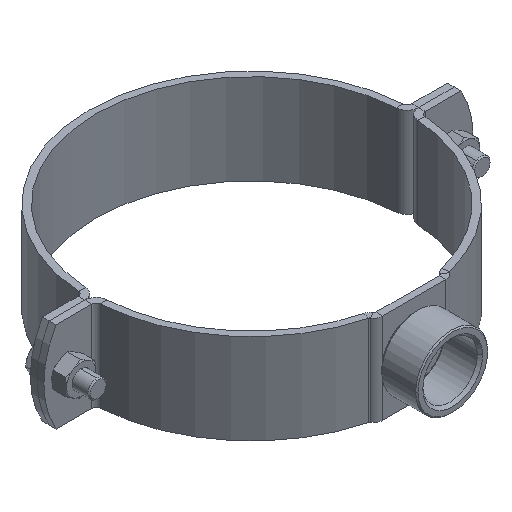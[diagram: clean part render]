
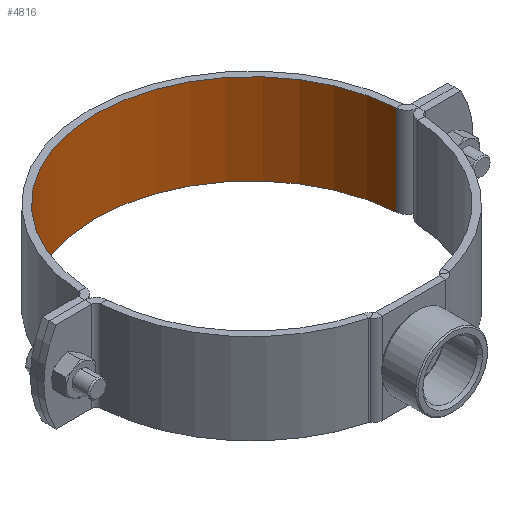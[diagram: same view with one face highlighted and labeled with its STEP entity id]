
A CAD part, isometric view. The second image highlights one B-rep face of the part: STEP entity #4816.
In plain terms, the highlighted cylindrical face has radius 69 mm (diameter 138 mm), a partial arc.
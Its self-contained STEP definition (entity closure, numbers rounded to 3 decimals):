
#94 = VERTEX_POINT ( 'NONE', #1108 ) ;
#259 = VERTEX_POINT ( 'NONE', #895 ) ;
#493 = CARTESIAN_POINT ( 'NONE',  ( 0., 0., 20. ) ) ;
#697 = CARTESIAN_POINT ( 'NONE',  ( 0., 0., -20. ) ) ;
#738 = CARTESIAN_POINT ( 'NONE',  ( 0., 0., 20. ) ) ;
#749 = LINE ( 'NONE', #2283, #4281 ) ;
#859 = ORIENTED_EDGE ( 'NONE', *, *, #3458, .T. ) ;
#895 = CARTESIAN_POINT ( 'NONE',  ( -68.842, -4.662, -20. ) ) ;
#1108 = CARTESIAN_POINT ( 'NONE',  ( 68.842, -4.662, -20. ) ) ;
#1189 = CARTESIAN_POINT ( 'NONE',  ( 68.842, -4.662, 20. ) ) ;
#1432 = VERTEX_POINT ( 'NONE', #1189 ) ;
#1626 = LINE ( 'NONE', #3234, #4044 ) ;
#1651 = ORIENTED_EDGE ( 'NONE', *, *, #2313, .T. ) ;
#1671 = EDGE_CURVE ( 'NONE', #259, #94, #2419, .T. ) ;
#1851 = ORIENTED_EDGE ( 'NONE', *, *, #1671, .F. ) ;
#1981 = DIRECTION ( 'NONE',  ( 0., 0., -1. ) ) ;
#2221 = DIRECTION ( 'NONE',  ( 0., 0., 1. ) ) ;
#2271 = DIRECTION ( 'NONE',  ( 0., 0., 1. ) ) ;
#2283 = CARTESIAN_POINT ( 'NONE',  ( 68.842, -4.662, 20. ) ) ;
#2313 = EDGE_CURVE ( 'NONE', #4370, #1432, #3329, .T. ) ;
#2383 = FACE_OUTER_BOUND ( 'NONE', #2889, .T. ) ;
#2419 = CIRCLE ( 'NONE', #2733, 69. ) ;
#2548 = AXIS2_PLACEMENT_3D ( 'NONE', #493, #1981, #3591 ) ;
#2733 = AXIS2_PLACEMENT_3D ( 'NONE', #697, #2221, #3838 ) ;
#2889 = EDGE_LOOP ( 'NONE', ( #1851, #3485, #1651, #859 ) ) ;
#3124 = EDGE_CURVE ( 'NONE', #4370, #259, #1626, .T. ) ;
#3234 = CARTESIAN_POINT ( 'NONE',  ( -68.842, -4.662, 20. ) ) ;
#3329 = CIRCLE ( 'NONE', #3334, 69. ) ;
#3334 = AXIS2_PLACEMENT_3D ( 'NONE', #738, #2271, #3886 ) ;
#3458 = EDGE_CURVE ( 'NONE', #1432, #94, #749, .T. ) ;
#3485 = ORIENTED_EDGE ( 'NONE', *, *, #3124, .F. ) ;
#3591 = DIRECTION ( 'NONE',  ( -1., 0., 0. ) ) ;
#3838 = DIRECTION ( 'NONE',  ( 1., 0., 0. ) ) ;
#3886 = DIRECTION ( 'NONE',  ( 1., 0., 0. ) ) ;
#3894 = DIRECTION ( 'NONE',  ( 0., 0., -1. ) ) ;
#4004 = CYLINDRICAL_SURFACE ( 'NONE', #2548, 69. ) ;
#4044 = VECTOR ( 'NONE', #4833, 1000. ) ;
#4281 = VECTOR ( 'NONE', #3894, 1000. ) ;
#4370 = VERTEX_POINT ( 'NONE', #4484 ) ;
#4484 = CARTESIAN_POINT ( 'NONE',  ( -68.842, -4.662, 20. ) ) ;
#4816 = ADVANCED_FACE ( 'NONE', ( #2383 ), #4004, .F. ) ;
#4833 = DIRECTION ( 'NONE',  ( 0., 0., -1. ) ) ;
